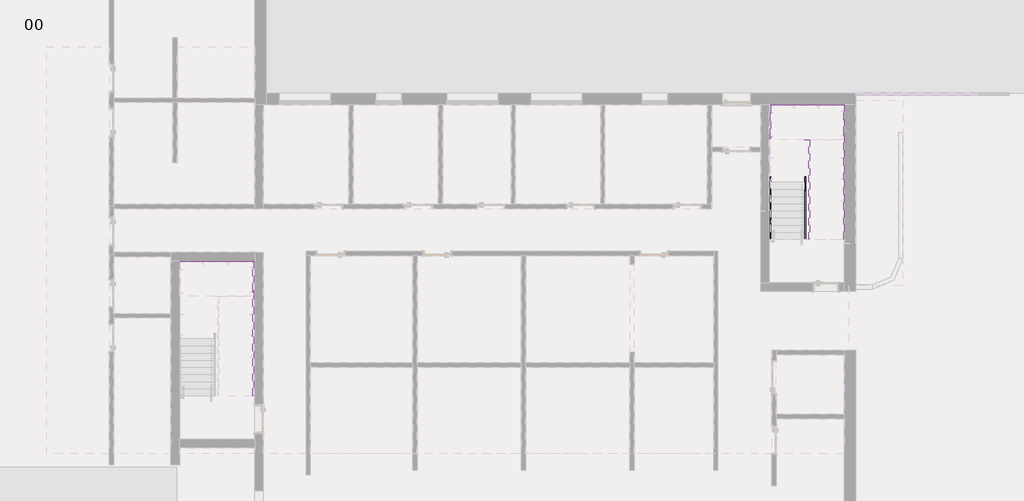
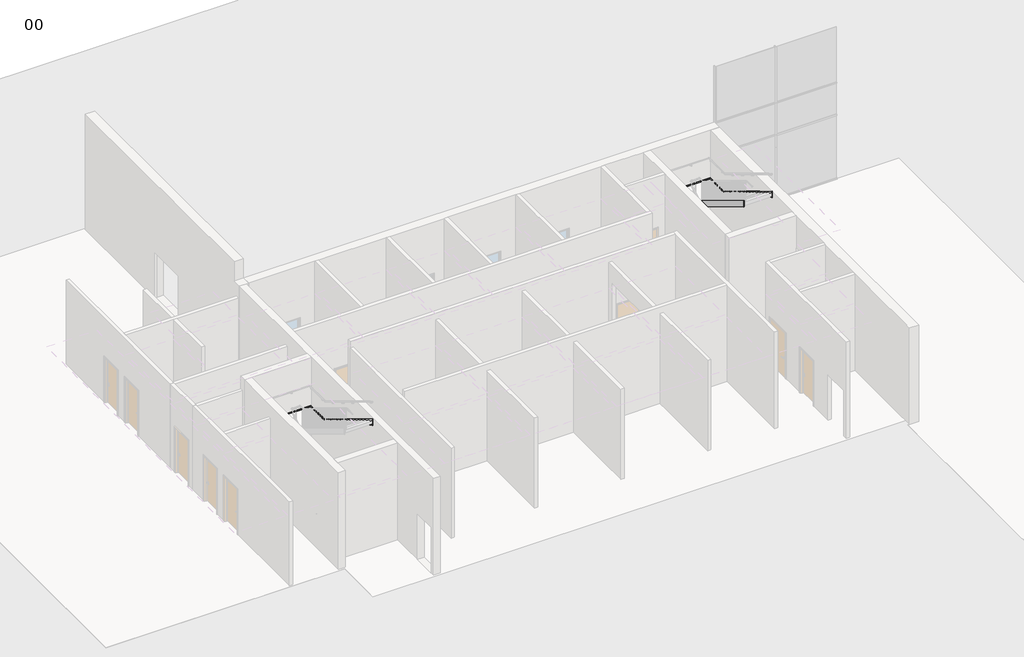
# One storey, part 11 of 11: 11 members.
"""IFC4 building model written with IfcOpenShell, lengths in millimetres."""

import ifcopenshell
import ifcopenshell.guid

model = None  # the IFC model being written
_history = None  # IfcOwnerHistory: only IFC2X3 demands one
_inside = {}  # id of a spatial element -> (the spatial element, [elements in it])
_under = {}  # id of a project, library or spatial element -> (it, [spatial elements below it])
_declared = {}  # id of a project -> (the project, [libraries it declares])
_typed = {}  # id of a type object -> (the type object, [elements of that type])
_made_of = {}  # id of a material, layer set ... -> (it, [elements and type objects made of it])


def new_model(schema):
    """Start an empty IFC model of exactly this schema.

    Asked for "IFC4X3", IfcOpenShell would pick the latest addendum, in which some entities
    have other attributes; the version numbers below select the first issue.
    IFC2X3 requires an IfcOwnerHistory on every rooted entity: one is made here for all.
    """
    global model, _history
    if schema == "IFC4X3":
        model = ifcopenshell.file(schema_version=(4, 3, 0, 0))
    else:
        model = ifcopenshell.file(schema=schema)
    _inside.clear()
    _under.clear()
    _declared.clear()
    _typed.clear()
    _made_of.clear()
    _history = None
    if model.schema == "IFC2X3":
        org = make("IfcOrganization", Name="unknown")
        user = make(
            "IfcPersonAndOrganization",
            ThePerson=make("IfcPerson", FamilyName="unknown"),
            TheOrganization=org,
        )
        app = make(
            "IfcApplication",
            ApplicationDeveloper=org,
            Version="unknown",
            ApplicationFullName="unknown",
            ApplicationIdentifier="unknown",
        )
        _history = make(
            "IfcOwnerHistory",
            OwningUser=user,
            OwningApplication=app,
            ChangeAction="ADDED",
            CreationDate=0,
        )
    return model


def make(cls, **values):
    """One entity of the class cls with the attributes given. An attribute that is None is left unset."""
    return model.create_entity(
        cls, **{name: value for name, value in values.items() if value is not None}
    )


def rooted(cls, **values):
    """An entity with a GlobalId (a new one), such as an element, a storey or a relation."""
    return make(cls, GlobalId=ifcopenshell.guid.new(), OwnerHistory=_history, **values)


def si_unit(unit_type, name, prefix=None):
    """IfcSIUnit, for example si_unit("LENGTHUNIT", "METRE", prefix="MILLI")."""
    return make("IfcSIUnit", UnitType=unit_type, Prefix=prefix, Name=name)


def assignment(units):
    """IfcUnitAssignment: the units of a project."""
    return None if units is None else make("IfcUnitAssignment", Units=units)


def point(xyz):
    """IfcCartesianPoint."""
    return None if xyz is None else make("IfcCartesianPoint", Coordinates=xyz)


def direction(xyz):
    """IfcDirection."""
    return None if xyz is None else make("IfcDirection", DirectionRatios=xyz)


def frame(location, z_axis=None, x_axis=None):
    """IfcAxis2Placement3D, a coordinate frame: its origin and axes. An axis left out is left unset."""
    return make(
        "IfcAxis2Placement3D",
        Location=point(location),
        Axis=direction(z_axis),
        RefDirection=direction(x_axis),
    )


def origin():
    """The frame at (0, 0, 0) with its axes left unset."""
    return frame((0.0, 0.0, 0.0))


def place(relative_to, where):
    """IfcLocalPlacement: puts the frame where relative to a parent placement (None: the world)."""
    return make(
        "IfcLocalPlacement", PlacementRelTo=relative_to, RelativePlacement=where
    )


def context(
    kind, dimensions, precision=None, world=None, true_north=None, identifier=None
):
    """IfcGeometricRepresentationContext, for example the 3D "Model" context."""
    return make(
        "IfcGeometricRepresentationContext",
        ContextIdentifier=identifier,
        ContextType=kind,
        CoordinateSpaceDimension=dimensions,
        Precision=precision,
        WorldCoordinateSystem=world,
        TrueNorth=true_north,
    )


def project(units=None, contexts=None):
    """IfcProject with its units and contexts."""
    return rooted(
        "IfcProject",
        Name="project",
        RepresentationContexts=contexts,
        UnitsInContext=assignment(units),
    )


def spatial(cls, under=None, at=None, **own):
    """A site, building, storey or space (cls), placed at a placement, below another one or the project."""
    s = rooted(cls, ObjectPlacement=at, **own)
    if under is not None:
        _under.setdefault(under.id(), (under, []))[1].append(s)
    return s


def polyline(points):
    """IfcPolyline through the points."""
    return make("IfcPolyline", Points=[point(p) for p in points])


def outline(outer, holes=None, kind="AREA"):
    """IfcArbitraryClosedProfileDef: a profile drawn as a closed curve; with holes, ...WithVoids."""
    if holes is None:
        return make("IfcArbitraryClosedProfileDef", ProfileType=kind, OuterCurve=outer)
    return make(
        "IfcArbitraryProfileDefWithVoids",
        ProfileType=kind,
        OuterCurve=outer,
        InnerCurves=holes,
    )


def extrude(swept, where, along, depth):
    """IfcExtrudedAreaSolid: the profile swept, set in the frame where, extruded along a direction by depth."""
    return make(
        "IfcExtrudedAreaSolid",
        SweptArea=swept,
        Position=where,
        ExtrudedDirection=direction(along),
        Depth=depth,
    )


def faces_of(points, faces, orient=None, outer=None):
    """IfcFace entities. A face is a list of loops; a loop is a list of indices into points, from 0.

    orient and outer hold one flag for each loop. By default every Orientation is true, the
    first loop of a face is its IfcFaceOuterBound and the others are IfcFaceBound.
    """
    made = []
    for i, loops in enumerate(faces):
        bounds = []
        for j, loop in enumerate(loops):
            is_outer = j == 0 if outer is None else outer[i][j]
            bounds.append(
                make(
                    "IfcFaceOuterBound" if is_outer else "IfcFaceBound",
                    Bound=make("IfcPolyLoop", Polygon=[points[k] for k in loop]),
                    Orientation=True if orient is None else orient[i][j],
                )
            )
        made.append(make("IfcFace", Bounds=bounds))
    return made


def faceted_brep(points, faces, orient=None, outer=None, voids=None):
    """IfcFacetedBrep: a solid bounded by flat faces; with voids (closed shells), ...WithVoids."""
    shared = [point(p) for p in points]
    hull = make("IfcClosedShell", CfsFaces=faces_of(shared, faces, orient, outer))
    if voids is None:
        return make("IfcFacetedBrep", Outer=hull)
    return make(
        "IfcFacetedBrepWithVoids",
        Outer=hull,
        Voids=[
            make(cls, CfsFaces=faces_of(shared, fs, o, b)) for cls, fs, o, b in voids
        ],
    )


def shape(context_of_items, identifier, shape_type, items):
    """IfcShapeRepresentation: the items that make up one representation, for example the "Body"."""
    return make(
        "IfcShapeRepresentation",
        ContextOfItems=context_of_items,
        RepresentationIdentifier=identifier,
        RepresentationType=shape_type,
        Items=items,
    )


def made_of(thing, what):
    """Note that an element or type object is made of a material, layer set ...; save() writes the relation."""
    if what is not None:
        _made_of.setdefault(what.id(), (what, []))[1].append(thing)
    return thing


def element(
    cls,
    number,
    at=None,
    inside=None,
    cuts=None,
    type_object=None,
    material=None,
    context=None,
    identifier="Body",
    shape_type=None,
    held_by="IfcProductDefinitionShape",
    body=None,
    shapes=None,
    **own,
):
    """One element of the class cls, such as IfcWall. Its Tag is "e" and its number.

    at: its placement. inside: the storey or other place that contains it. cuts: it is an
    opening in that element (IfcRelVoidsElement). A single representation is given by context,
    identifier, shape_type and body (its items); several are given by shapes. held_by: the class
    of the entity that holds the representations. save() writes the other relations.
    """
    e = rooted(cls, Tag="e%d" % number, ObjectPlacement=at, **own)
    if body is not None:
        shapes = [shape(context, identifier, shape_type, body)]
    if shapes is not None:
        e.Representation = make(held_by, Representations=shapes)
    if inside is not None:
        _inside.setdefault(inside.id(), (inside, []))[1].append(e)
    if cuts is not None:
        rooted(
            "IfcRelVoidsElement", RelatingBuildingElement=cuts, RelatedOpeningElement=e
        )
    if type_object is not None:
        _typed.setdefault(type_object.id(), (type_object, []))[1].append(e)
    return made_of(e, material)


def aggregate(whole, parts):
    """IfcRelAggregates: a whole, such as a stair, and the parts it consists of."""
    return rooted("IfcRelAggregates", RelatingObject=whole, RelatedObjects=parts)


def save(model, path):
    """Write the relations noted so far, then the file.

    IfcRelAggregates (storeys below a building ...), IfcRelContainedInSpatialStructure (elements
    in a storey), IfcRelDefinesByType, IfcRelAssociatesMaterial and IfcRelDeclares: one each for
    every whole, place, type object, material and project.
    """
    for whole, parts in _under.values():
        aggregate(whole, parts)
    for where, things in _inside.values():
        rooted(
            "IfcRelContainedInSpatialStructure",
            RelatedElements=things,
            RelatingStructure=where,
        )
    for kind, things in _typed.values():
        rooted("IfcRelDefinesByType", RelatedObjects=things, RelatingType=kind)
    for what, things in _made_of.values():
        rooted("IfcRelAssociatesMaterial", RelatedObjects=things, RelatingMaterial=what)
    for by, libraries in _declared.values():
        rooted("IfcRelDeclares", RelatingContext=by, RelatedDefinitions=libraries)
    model.write(path)


model = new_model("IFC4")

# Units and contexts
model_context = context("Model", 3, world=origin())
ifc_project = project(units=[si_unit("LENGTHUNIT", "METRE", prefix="MILLI")], contexts=[model_context])

# Site, building, storey
site = spatial("IfcSite", under=ifc_project)
building = spatial("IfcBuilding", under=site)
storey = spatial("IfcBuildingStorey", under=building, Name="00", Elevation=0.0)

# Members
placement = place(None, origin())
element("IfcMember", 1, ObjectType="Stringer_25x250mm_Material", at=placement, inside=storey, context=model_context, shape_type="SweptSolid", body=[
    extrude(outline(polyline([(-388061.939179, 2300.0), (-388131.1851702, 2050.0), (-391774.0026386, 4235.6904811), (-391774.0026386, 4527.2380758), (-388061.939179, 2300.0)])), frame((424951.3206883, 0.0, 0.0), z_axis=(1.0, 0.0, 0.0), x_axis=(0.0, 1.0, 0.0)), (0.0, 0.0, 1.0), 25.0),
])
element("IfcMember", 2, ObjectType="Stringer_25x250mm_Material", at=placement, inside=storey, context=model_context, shape_type="Brep", body=[
    faceted_brep([(424951.3206883, -388061.939179, 2300.0), (424976.3206883, -388061.939179, 2300.0), (424976.3206883, -387049.0026386, 2300.0), (424951.3206883, -387074.0026386, 2300.0), (424951.3206883, -388131.1851702, 2050.0), (424951.3206883, -387074.0026386, 2050.0), (424976.3206883, -388131.1851702, 2050.0), (424976.3206883, -387049.0026386, 2050.0)], [[[0, 1, 2, 3]], [[4, 0, 3, 5]], [[6, 4, 5, 7]], [[1, 6, 7, 2]], [[1, 0, 4, 6]], [[2, 7, 5, 3]]]),
])
element("IfcMember", 3, ObjectType="Stringer_25x250mm_Material", at=placement, inside=storey, context=model_context, shape_type="SweptSolid", body=[
    extrude(outline(polyline([(424976.3206883, -387049.0026386), (424951.3206883, -387074.0026386), (422401.3206883, -387074.0026386), (422376.3206883, -387049.0026386), (424976.3206883, -387049.0026386)])), frame((0.0, 0.0, 2050.0), z_axis=(0.0, 0.0, 1.0), x_axis=(1.0, 0.0, 0.0)), (0.0, 0.0, 1.0), 250.0),
])
element("IfcMember", 4, ObjectType="Stringer_25x250mm_Material", at=placement, inside=storey, context=model_context, shape_type="SweptSolid", body=[
    extrude(outline(polyline([(-386275.0026386, 0.0), (-386275.0026386, 177.2380758), (-382737.0660983, 2300.0), (-382667.820107, 2050.0), (-386084.4867737, 0.0), (-386275.0026386, 0.0)])), frame((443122.3206883, 0.0, 0.0), z_axis=(1.0, 0.0, 0.0), x_axis=(0.0, 1.0, 0.0)), (0.0, 0.0, 1.0), 25.0),
])
element("IfcMember", 5, ObjectType="Stringer_25x250mm_Material", at=placement, inside=storey, context=model_context, shape_type="SweptSolid", body=[
    extrude(outline(polyline([(-386275.0026386, 0.0), (-386275.0026386, 177.2380758), (-382800.0026386, 2262.2380758), (-382800.0026386, 1970.6904811), (-386084.4867737, 0.0), (-386275.0026386, 0.0)])), frame((444347.3206883, 0.0, 0.0), z_axis=(1.0, 0.0, 0.0), x_axis=(0.0, 1.0, 0.0)), (0.0, 0.0, 1.0), 25.0),
])
element("IfcMember", 6, ObjectType="Stringer_25x250mm_Material", at=placement, inside=storey, context=model_context, shape_type="SweptSolid", body=[
    extrude(outline(polyline([(-382562.939179, 2300.0), (-382632.1851702, 2050.0), (-386275.0026386, 4235.6904811), (-386275.0026386, 4527.2380758), (-382562.939179, 2300.0)])), frame((445713.3206883, 0.0, 0.0), z_axis=(1.0, 0.0, 0.0), x_axis=(0.0, 1.0, 0.0)), (0.0, 0.0, 1.0), 25.0),
])
element("IfcMember", 7, ObjectType="Stringer_25x250mm_Material", at=placement, inside=storey, context=model_context, shape_type="SweptSolid", body=[
    extrude(outline(polyline([(-382775.0026386, 2427.2380758), (-382775.0026386, 2135.6904811), (-386275.0026386, 4235.6904811), (-386275.0026386, 4527.2380758), (-382775.0026386, 2427.2380758)])), frame((444488.3206883, 0.0, 0.0), z_axis=(1.0, 0.0, 0.0), x_axis=(0.0, 1.0, 0.0)), (0.0, 0.0, 1.0), 25.0),
])
element("IfcMember", 8, ObjectType="Stringer_25x250mm_Material", at=placement, inside=storey, context=model_context, shape_type="Brep", body=[
    faceted_brep([(445713.3206883, -382562.939179, 2300.0), (445738.3206883, -382562.939179, 2300.0), (445738.3206883, -381550.0026386, 2300.0), (445713.3206883, -381575.0026386, 2300.0), (445713.3206883, -382632.1851702, 2050.0), (445713.3206883, -381575.0026386, 2050.0), (445738.3206883, -382632.1851702, 2050.0), (445738.3206883, -381550.0026386, 2050.0)], [[[0, 1, 2, 3]], [[4, 0, 3, 5]], [[6, 4, 5, 7]], [[1, 6, 7, 2]], [[1, 0, 4, 6]], [[2, 7, 5, 3]]]),
])
element("IfcMember", 9, ObjectType="Stringer_25x250mm_Material", at=placement, inside=storey, context=model_context, shape_type="SweptSolid", body=[
    extrude(outline(polyline([(445738.3206883, -381550.0026386), (445713.3206883, -381575.0026386), (443147.3206883, -381575.0026386), (443122.3206883, -381550.0026386), (445738.3206883, -381550.0026386)])), frame((0.0, 0.0, 2050.0), z_axis=(0.0, 0.0, 1.0), x_axis=(1.0, 0.0, 0.0)), (0.0, 0.0, 1.0), 250.0),
])
element("IfcMember", 10, ObjectType="Stringer_25x250mm_Material", at=placement, inside=storey, context=model_context, shape_type="Brep", body=[
    faceted_brep([(443147.3206883, -381575.0026386, 2300.0), (443122.3206883, -381550.0026386, 2300.0), (443122.3206883, -382737.0660983, 2300.0), (443147.3206883, -382737.0660983, 2300.0), (443147.3206883, -381575.0026386, 2050.0), (443147.3206883, -382667.820107, 2050.0), (443122.3206883, -381550.0026386, 2050.0), (443122.3206883, -382667.820107, 2050.0)], [[[0, 1, 2, 3]], [[4, 0, 3, 5]], [[6, 4, 5, 7]], [[1, 6, 7, 2]], [[1, 0, 4, 6]], [[2, 7, 5, 3]]]),
])
element("IfcMember", 11, ObjectType="Stringer_25x250mm_Material", at=placement, inside=storey, context=model_context, shape_type="SweptSolid", body=[
    extrude(outline(polyline([(444347.3206883, -382800.0026386), (444347.3206883, -382775.0026386), (444488.3206883, -382775.0026386), (444488.3206883, -382800.0026386), (444347.3206883, -382800.0026386)])), frame((0.0, 0.0, 2050.0), z_axis=(0.0, 0.0, 1.0), x_axis=(1.0, 0.0, 0.0)), (0.0, 0.0, 1.0), 250.0),
])

save(model, "model.ifc")
